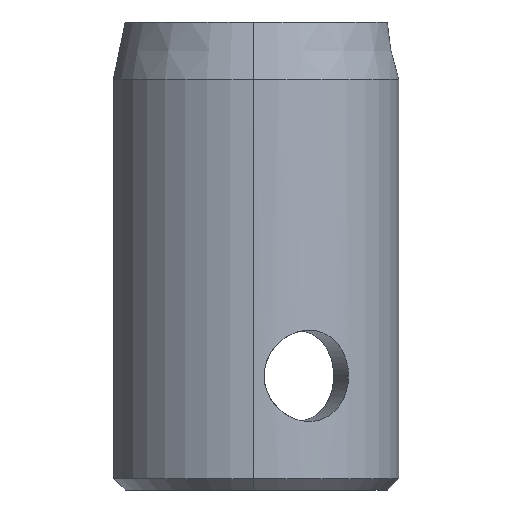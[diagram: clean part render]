
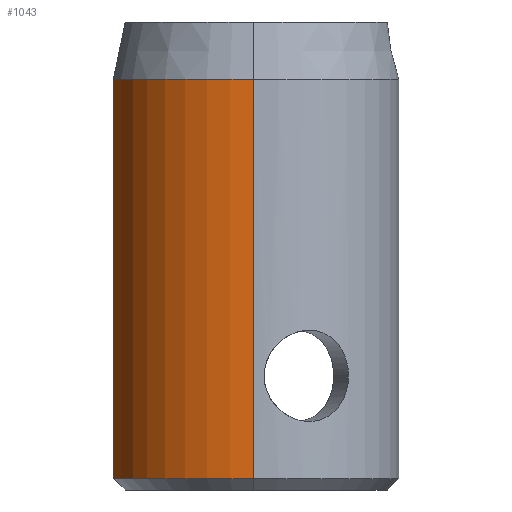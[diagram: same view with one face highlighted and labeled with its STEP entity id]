
A CAD part, left-side view. The second image highlights one B-rep face of the part: STEP entity #1043.
In plain terms, the highlighted cylindrical face has radius 12.7 mm (diameter 25.4 mm), a partial arc.
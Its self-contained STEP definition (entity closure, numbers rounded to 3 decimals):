
#3 = EDGE_LOOP ( 'NONE', ( #939, #938, #933, #932 ) ) ;
#18 = VERTEX_POINT ( 'NONE', #999 ) ;
#24 = VERTEX_POINT ( 'NONE', #991 ) ;
#25 = VERTEX_POINT ( 'NONE', #990 ) ;
#55 = VERTEX_POINT ( 'NONE', #100 ) ;
#68 = CIRCLE ( 'NONE', #1136, 12.7 ) ;
#100 = CARTESIAN_POINT ( 'NONE',  ( -12.7, 0., 15.5 ) ) ;
#212 = EDGE_CURVE ( 'NONE', #55, #24, #295, .T. ) ;
#215 = EDGE_CURVE ( 'NONE', #55, #18, #293, .T. ) ;
#216 = EDGE_CURVE ( 'NONE', #18, #25, #296, .T. ) ;
#290 = VECTOR ( 'NONE', #318, 1000. ) ;
#293 = CIRCLE ( 'NONE', #1095, 12.7 ) ;
#294 = VECTOR ( 'NONE', #316, 1000. ) ;
#295 = LINE ( 'NONE', #311, #294 ) ;
#296 = LINE ( 'NONE', #385, #290 ) ;
#311 = CARTESIAN_POINT ( 'NONE',  ( -12.7, 0., 20.5 ) ) ;
#316 = DIRECTION ( 'NONE',  ( 0., 0., -1. ) ) ;
#318 = DIRECTION ( 'NONE',  ( 0., 0., -1. ) ) ;
#385 = CARTESIAN_POINT ( 'NONE',  ( -3.175, 12.297, 20.5 ) ) ;
#386 = CARTESIAN_POINT ( 'NONE',  ( 0., 0., 15.5 ) ) ;
#387 = DIRECTION ( 'NONE',  ( 0., 0., -1. ) ) ;
#388 = DIRECTION ( 'NONE',  ( 1., 0., 0. ) ) ;
#505 = DIRECTION ( 'NONE',  ( -1., 0., 0. ) ) ;
#506 = DIRECTION ( 'NONE',  ( 0., 0., -1. ) ) ;
#508 = CARTESIAN_POINT ( 'NONE',  ( 0., 0., 20.5 ) ) ;
#643 = CARTESIAN_POINT ( 'NONE',  ( 0., 0., -19.5 ) ) ;
#644 = DIRECTION ( 'NONE',  ( 0., 0., 1. ) ) ;
#645 = DIRECTION ( 'NONE',  ( 1., 0., 0. ) ) ;
#932 = ORIENTED_EDGE ( 'NONE', *, *, #1076, .T. ) ;
#933 = ORIENTED_EDGE ( 'NONE', *, *, #216, .T. ) ;
#938 = ORIENTED_EDGE ( 'NONE', *, *, #215, .T. ) ;
#939 = ORIENTED_EDGE ( 'NONE', *, *, #212, .F. ) ;
#964 = CYLINDRICAL_SURFACE ( 'NONE', #1115, 12.7 ) ;
#990 = CARTESIAN_POINT ( 'NONE',  ( -3.175, 12.297, -19.5 ) ) ;
#991 = CARTESIAN_POINT ( 'NONE',  ( -12.7, 0., -19.5 ) ) ;
#999 = CARTESIAN_POINT ( 'NONE',  ( -3.175, 12.297, 15.5 ) ) ;
#1007 = FACE_OUTER_BOUND ( 'NONE', #3, .T. ) ;
#1043 = ADVANCED_FACE ( 'NONE', ( #1007 ), #964, .T. ) ;
#1076 = EDGE_CURVE ( 'NONE', #25, #24, #68, .T. ) ;
#1095 = AXIS2_PLACEMENT_3D ( 'NONE', #386, #387, #388 ) ;
#1115 = AXIS2_PLACEMENT_3D ( 'NONE', #508, #506, #505 ) ;
#1136 = AXIS2_PLACEMENT_3D ( 'NONE', #643, #644, #645 ) ;
